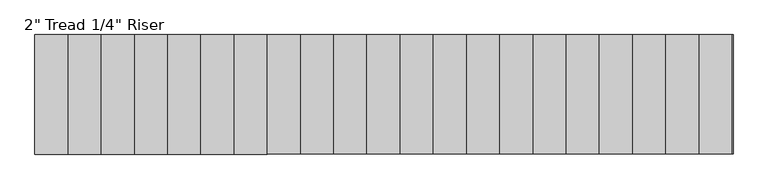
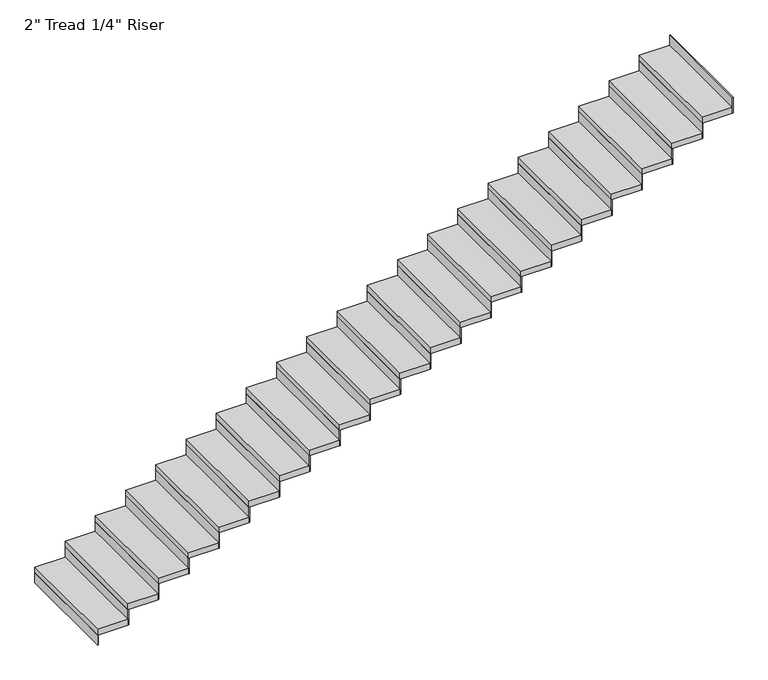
"""IFC4 building model written with IfcOpenShell, lengths in millimetres: stair flight geometry."""

import ifcopenshell
import ifcopenshell.guid

model = None  # the IFC model being written
_history = None  # IfcOwnerHistory: only IFC2X3 demands one
_inside = {}  # id of a spatial element -> (the spatial element, [elements in it])
_under = {}  # id of a project, library or spatial element -> (it, [spatial elements below it])
_declared = {}  # id of a project -> (the project, [libraries it declares])
_typed = {}  # id of a type object -> (the type object, [elements of that type])
_made_of = {}  # id of a material, layer set ... -> (it, [elements and type objects made of it])


def new_model(schema):
    """Start an empty IFC model of exactly this schema.

    Asked for "IFC4X3", IfcOpenShell would pick the latest addendum, in which some entities
    have other attributes; the version numbers below select the first issue.
    IFC2X3 requires an IfcOwnerHistory on every rooted entity: one is made here for all.
    """
    global model, _history
    if schema == "IFC4X3":
        model = ifcopenshell.file(schema_version=(4, 3, 0, 0))
    else:
        model = ifcopenshell.file(schema=schema)
    _inside.clear()
    _under.clear()
    _declared.clear()
    _typed.clear()
    _made_of.clear()
    _history = None
    if model.schema == "IFC2X3":
        org = make("IfcOrganization", Name="unknown")
        user = make(
            "IfcPersonAndOrganization",
            ThePerson=make("IfcPerson", FamilyName="unknown"),
            TheOrganization=org,
        )
        app = make(
            "IfcApplication",
            ApplicationDeveloper=org,
            Version="unknown",
            ApplicationFullName="unknown",
            ApplicationIdentifier="unknown",
        )
        _history = make(
            "IfcOwnerHistory",
            OwningUser=user,
            OwningApplication=app,
            ChangeAction="ADDED",
            CreationDate=0,
        )
    return model


def make(cls, **values):
    """One entity of the class cls with the attributes given. An attribute that is None is left unset."""
    return model.create_entity(
        cls, **{name: value for name, value in values.items() if value is not None}
    )


def rooted(cls, **values):
    """An entity with a GlobalId (a new one), such as an element, a storey or a relation."""
    return make(cls, GlobalId=ifcopenshell.guid.new(), OwnerHistory=_history, **values)


def si_unit(unit_type, name, prefix=None):
    """IfcSIUnit, for example si_unit("LENGTHUNIT", "METRE", prefix="MILLI")."""
    return make("IfcSIUnit", UnitType=unit_type, Prefix=prefix, Name=name)


def assignment(units):
    """IfcUnitAssignment: the units of a project."""
    return None if units is None else make("IfcUnitAssignment", Units=units)


def point(xyz):
    """IfcCartesianPoint."""
    return None if xyz is None else make("IfcCartesianPoint", Coordinates=xyz)


def direction(xyz):
    """IfcDirection."""
    return None if xyz is None else make("IfcDirection", DirectionRatios=xyz)


def frame(location, z_axis=None, x_axis=None):
    """IfcAxis2Placement3D, a coordinate frame: its origin and axes. An axis left out is left unset."""
    return make(
        "IfcAxis2Placement3D",
        Location=point(location),
        Axis=direction(z_axis),
        RefDirection=direction(x_axis),
    )


def origin():
    """The frame at (0, 0, 0) with its axes left unset."""
    return frame((0.0, 0.0, 0.0))


def origin_with_axes():
    """The frame at (0, 0, 0) with the z axis (0, 0, 1) and the x axis (1, 0, 0) written out."""
    return frame((0.0, 0.0, 0.0), z_axis=(0.0, 0.0, 1.0), x_axis=(1.0, 0.0, 0.0))


def place(relative_to, where):
    """IfcLocalPlacement: puts the frame where relative to a parent placement (None: the world)."""
    return make(
        "IfcLocalPlacement", PlacementRelTo=relative_to, RelativePlacement=where
    )


def context(
    kind, dimensions, precision=None, world=None, true_north=None, identifier=None
):
    """IfcGeometricRepresentationContext, for example the 3D "Model" context."""
    return make(
        "IfcGeometricRepresentationContext",
        ContextIdentifier=identifier,
        ContextType=kind,
        CoordinateSpaceDimension=dimensions,
        Precision=precision,
        WorldCoordinateSystem=world,
        TrueNorth=true_north,
    )


def project(units=None, contexts=None):
    """IfcProject with its units and contexts."""
    return rooted(
        "IfcProject",
        Name="project",
        RepresentationContexts=contexts,
        UnitsInContext=assignment(units),
    )


def spatial(cls, under=None, at=None, **own):
    """A site, building, storey or space (cls), placed at a placement, below another one or the project."""
    s = rooted(cls, ObjectPlacement=at, **own)
    if under is not None:
        _under.setdefault(under.id(), (under, []))[1].append(s)
    return s


def polyline(points):
    """IfcPolyline through the points."""
    return make("IfcPolyline", Points=[point(p) for p in points])


def outline(outer, holes=None, kind="AREA"):
    """IfcArbitraryClosedProfileDef: a profile drawn as a closed curve; with holes, ...WithVoids."""
    if holes is None:
        return make("IfcArbitraryClosedProfileDef", ProfileType=kind, OuterCurve=outer)
    return make(
        "IfcArbitraryProfileDefWithVoids",
        ProfileType=kind,
        OuterCurve=outer,
        InnerCurves=holes,
    )


def extrude(swept, where, along, depth):
    """IfcExtrudedAreaSolid: the profile swept, set in the frame where, extruded along a direction by depth."""
    return make(
        "IfcExtrudedAreaSolid",
        SweptArea=swept,
        Position=where,
        ExtrudedDirection=direction(along),
        Depth=depth,
    )


def shape(context_of_items, identifier, shape_type, items):
    """IfcShapeRepresentation: the items that make up one representation, for example the "Body"."""
    return make(
        "IfcShapeRepresentation",
        ContextOfItems=context_of_items,
        RepresentationIdentifier=identifier,
        RepresentationType=shape_type,
        Items=items,
    )


def source(mapping_origin, context_of_items, identifier, shape_type, items):
    """IfcRepresentationMap: a shape defined once, which mapped items show again and again."""
    return make(
        "IfcRepresentationMap",
        MappingOrigin=mapping_origin,
        MappedRepresentation=shape(context_of_items, identifier, shape_type, items),
    )


def transform(
    local_origin,
    x_axis=None,
    y_axis=None,
    z_axis=None,
    scale=None,
    scale2=None,
    scale3=None,
    uniform=True,
):
    """IfcCartesianTransformationOperator3D, or its non-uniform kind. x_axis, y_axis, z_axis: its Axis1, 2, 3."""
    if uniform:
        return make(
            "IfcCartesianTransformationOperator3D",
            Axis1=direction(x_axis),
            Axis2=direction(y_axis),
            LocalOrigin=point(local_origin),
            Scale=scale,
            Axis3=direction(z_axis),
        )
    return make(
        "IfcCartesianTransformationOperator3DnonUniform",
        Axis1=direction(x_axis),
        Axis2=direction(y_axis),
        LocalOrigin=point(local_origin),
        Scale=scale,
        Axis3=direction(z_axis),
        Scale2=scale2,
        Scale3=scale3,
    )


def mapped(mapping_source, mapping_target):
    """IfcMappedItem: shows the shape of a source again, moved by a transform."""
    return make(
        "IfcMappedItem", MappingSource=mapping_source, MappingTarget=mapping_target
    )


def made_of(thing, what):
    """Note that an element or type object is made of a material, layer set ...; save() writes the relation."""
    if what is not None:
        _made_of.setdefault(what.id(), (what, []))[1].append(thing)
    return thing


def element(
    cls,
    number,
    at=None,
    inside=None,
    cuts=None,
    type_object=None,
    material=None,
    context=None,
    identifier="Body",
    shape_type=None,
    held_by="IfcProductDefinitionShape",
    body=None,
    shapes=None,
    **own,
):
    """One element of the class cls, such as IfcWall. Its Tag is "e" and its number.

    at: its placement. inside: the storey or other place that contains it. cuts: it is an
    opening in that element (IfcRelVoidsElement). A single representation is given by context,
    identifier, shape_type and body (its items); several are given by shapes. held_by: the class
    of the entity that holds the representations. save() writes the other relations.
    """
    e = rooted(cls, Tag="e%d" % number, ObjectPlacement=at, **own)
    if body is not None:
        shapes = [shape(context, identifier, shape_type, body)]
    if shapes is not None:
        e.Representation = make(held_by, Representations=shapes)
    if inside is not None:
        _inside.setdefault(inside.id(), (inside, []))[1].append(e)
    if cuts is not None:
        rooted(
            "IfcRelVoidsElement", RelatingBuildingElement=cuts, RelatedOpeningElement=e
        )
    if type_object is not None:
        _typed.setdefault(type_object.id(), (type_object, []))[1].append(e)
    return made_of(e, material)


def aggregate(whole, parts):
    """IfcRelAggregates: a whole, such as a stair, and the parts it consists of."""
    return rooted("IfcRelAggregates", RelatingObject=whole, RelatedObjects=parts)


def save(model, path):
    """Write the relations noted so far, then the file.

    IfcRelAggregates (storeys below a building ...), IfcRelContainedInSpatialStructure (elements
    in a storey), IfcRelDefinesByType, IfcRelAssociatesMaterial and IfcRelDeclares: one each for
    every whole, place, type object, material and project.
    """
    for whole, parts in _under.values():
        aggregate(whole, parts)
    for where, things in _inside.values():
        rooted(
            "IfcRelContainedInSpatialStructure",
            RelatedElements=things,
            RelatingStructure=where,
        )
    for kind, things in _typed.values():
        rooted("IfcRelDefinesByType", RelatedObjects=things, RelatingType=kind)
    for what, things in _made_of.values():
        rooted("IfcRelAssociatesMaterial", RelatedObjects=things, RelatingMaterial=what)
    for by, libraries in _declared.values():
        rooted("IfcRelDeclares", RelatingContext=by, RelatedDefinitions=libraries)
    model.write(path)


def stair_flight_6f00a75b(model_context):
    return source(origin(), model_context, "Body", "SweptSolid", [
        extrude(outline(polyline([(10185.2072927, -18868.6990002), (10178.8572927, -18868.6990002), (10178.8572927, -17954.2990002), (10185.2072927, -17954.2990002), (10185.2072927, -18868.6990002)])), origin_with_axes(), (0.0, 0.0, 1.0), 87.7454545),
        extrude(outline(polyline([(10432.8572927, -17954.2990002), (10432.8572927, -18868.6990002), (10178.8572927, -18868.6990002), (10178.8572927, -17954.2990002), (10432.8572927, -17954.2990002)])), frame((0.0, 0.0, 87.7454545), z_axis=(0.0, 0.0, 1.0), x_axis=(1.0, 0.0, 0.0)), (0.0, 0.0, 1.0), 50.8),
        extrude(outline(polyline([(10439.2072927, -18868.6990002), (10432.8572927, -18868.6990002), (10432.8572927, -17954.2990002), (10439.2072927, -17954.2990002), (10439.2072927, -18868.6990002)])), frame((0.0, 0.0, 87.7454545), z_axis=(0.0, 0.0, 1.0), x_axis=(1.0, 0.0, 0.0)), (0.0, 0.0, 1.0), 138.5454545),
        extrude(outline(polyline([(10686.8572927, -17954.2990002), (10686.8572927, -18868.6990002), (10432.8572927, -18868.6990002), (10432.8572927, -17954.2990002), (10686.8572927, -17954.2990002)])), frame((0.0, 0.0, 226.2909091), z_axis=(0.0, 0.0, 1.0), x_axis=(1.0, 0.0, 0.0)), (0.0, 0.0, 1.0), 50.8),
        extrude(outline(polyline([(10693.2072927, -18868.6990002), (10686.8572927, -18868.6990002), (10686.8572927, -17954.2990002), (10693.2072927, -17954.2990002), (10693.2072927, -18868.6990002)])), frame((0.0, 0.0, 226.2909091), z_axis=(0.0, 0.0, 1.0), x_axis=(1.0, 0.0, 0.0)), (0.0, 0.0, 1.0), 138.5454545),
        extrude(outline(polyline([(10940.8572927, -17954.2990002), (10940.8572927, -18868.6990002), (10686.8572927, -18868.6990002), (10686.8572927, -17954.2990002), (10940.8572927, -17954.2990002)])), frame((0.0, 0.0, 364.8363636), z_axis=(0.0, 0.0, 1.0), x_axis=(1.0, 0.0, 0.0)), (0.0, 0.0, 1.0), 50.8),
        extrude(outline(polyline([(10947.2072927, -18868.6990002), (10940.8572927, -18868.6990002), (10940.8572927, -17954.2990002), (10947.2072927, -17954.2990002), (10947.2072927, -18868.6990002)])), frame((0.0, 0.0, 364.8363636), z_axis=(0.0, 0.0, 1.0), x_axis=(1.0, 0.0, 0.0)), (0.0, 0.0, 1.0), 138.5454545),
        extrude(outline(polyline([(11194.8572927, -17954.2990002), (11194.8572927, -18868.6990002), (10940.8572927, -18868.6990002), (10940.8572927, -17954.2990002), (11194.8572927, -17954.2990002)])), frame((0.0, 0.0, 503.3818182), z_axis=(0.0, 0.0, 1.0), x_axis=(1.0, 0.0, 0.0)), (0.0, 0.0, 1.0), 50.8),
        extrude(outline(polyline([(11201.2072927, -18868.6990002), (11194.8572927, -18868.6990002), (11194.8572927, -17954.2990002), (11201.2072927, -17954.2990002), (11201.2072927, -18868.6990002)])), frame((0.0, 0.0, 503.3818182), z_axis=(0.0, 0.0, 1.0), x_axis=(1.0, 0.0, 0.0)), (0.0, 0.0, 1.0), 138.5454545),
        extrude(outline(polyline([(11448.8572927, -17954.2990002), (11448.8572927, -18868.6990002), (11194.8572927, -18868.6990002), (11194.8572927, -17954.2990002), (11448.8572927, -17954.2990002)])), frame((0.0, 0.0, 641.9272727), z_axis=(0.0, 0.0, 1.0), x_axis=(1.0, 0.0, 0.0)), (0.0, 0.0, 1.0), 50.8),
        extrude(outline(polyline([(11455.2072927, -18868.6990002), (11448.8572927, -18868.6990002), (11448.8572927, -17954.2990002), (11455.2072927, -17954.2990002), (11455.2072927, -18868.6990002)])), frame((0.0, 0.0, 641.9272727), z_axis=(0.0, 0.0, 1.0), x_axis=(1.0, 0.0, 0.0)), (0.0, 0.0, 1.0), 138.5454545),
        extrude(outline(polyline([(11702.8572927, -17954.2990002), (11702.8572927, -18868.6990002), (11448.8572927, -18868.6990002), (11448.8572927, -17954.2990002), (11702.8572927, -17954.2990002)])), frame((0.0, 0.0, 780.4727273), z_axis=(0.0, 0.0, 1.0), x_axis=(1.0, 0.0, 0.0)), (0.0, 0.0, 1.0), 50.8),
        extrude(outline(polyline([(11709.2072927, -18868.6990002), (11702.8572927, -18868.6990002), (11702.8572927, -17954.2990002), (11709.2072927, -17954.2990002), (11709.2072927, -18868.6990002)])), frame((0.0, 0.0, 780.4727273), z_axis=(0.0, 0.0, 1.0), x_axis=(1.0, 0.0, 0.0)), (0.0, 0.0, 1.0), 138.5454545),
        extrude(outline(polyline([(11956.8572927, -17954.2990002), (11956.8572927, -18868.6990002), (11702.8572927, -18868.6990002), (11702.8572927, -17954.2990002), (11956.8572927, -17954.2990002)])), frame((0.0, 0.0, 919.0181818), z_axis=(0.0, 0.0, 1.0), x_axis=(1.0, 0.0, 0.0)), (0.0, 0.0, 1.0), 50.8),
        extrude(outline(polyline([(11963.2072927, -18868.6990002), (11956.8572927, -18868.6990002), (11956.8572927, -17954.2990002), (11963.2072927, -17954.2990002), (11963.2072927, -18868.6990002)])), frame((0.0, 0.0, 919.0181818), z_axis=(0.0, 0.0, 1.0), x_axis=(1.0, 0.0, 0.0)), (0.0, 0.0, 1.0), 138.5454545),
        extrude(outline(polyline([(12210.8572927, -17954.2990002), (12210.8572927, -18868.6990002), (11956.8572927, -18868.6990002), (11956.8572927, -17954.2990002), (12210.8572927, -17954.2990002)])), frame((0.0, 0.0, 1057.5636364), z_axis=(0.0, 0.0, 1.0), x_axis=(1.0, 0.0, 0.0)), (0.0, 0.0, 1.0), 50.8),
        extrude(outline(polyline([(12217.2072927, -18868.6990002), (12210.8572927, -18868.6990002), (12210.8572927, -17954.2990002), (12217.2072927, -17954.2990002), (12217.2072927, -18868.6990002)])), frame((0.0, 0.0, 1057.5636364), z_axis=(0.0, 0.0, 1.0), x_axis=(1.0, 0.0, 0.0)), (0.0, 0.0, 1.0), 138.5454545),
        extrude(outline(polyline([(12464.8572927, -17954.2990002), (12464.8572927, -18868.6990002), (12210.8572927, -18868.6990002), (12210.8572927, -17954.2990002), (12464.8572927, -17954.2990002)])), frame((0.0, 0.0, 1196.1090909), z_axis=(0.0, 0.0, 1.0), x_axis=(1.0, 0.0, 0.0)), (0.0, 0.0, 1.0), 50.8),
        extrude(outline(polyline([(12471.2072927, -18868.6990002), (12464.8572927, -18868.6990002), (12464.8572927, -17954.2990002), (12471.2072927, -17954.2990002), (12471.2072927, -18868.6990002)])), frame((0.0, 0.0, 1196.1090909), z_axis=(0.0, 0.0, 1.0), x_axis=(1.0, 0.0, 0.0)), (0.0, 0.0, 1.0), 138.5454545),
        extrude(outline(polyline([(12718.8572927, -17954.2990002), (12718.8572927, -18868.6990002), (12464.8572927, -18868.6990002), (12464.8572927, -17954.2990002), (12718.8572927, -17954.2990002)])), frame((0.0, 0.0, 1334.6545455), z_axis=(0.0, 0.0, 1.0), x_axis=(1.0, 0.0, 0.0)), (0.0, 0.0, 1.0), 50.8),
        extrude(outline(polyline([(12725.2072927, -18868.6990002), (12718.8572927, -18868.6990002), (12718.8572927, -17954.2990002), (12725.2072927, -17954.2990002), (12725.2072927, -18868.6990002)])), frame((0.0, 0.0, 1334.6545455), z_axis=(0.0, 0.0, 1.0), x_axis=(1.0, 0.0, 0.0)), (0.0, 0.0, 1.0), 138.5454545),
        extrude(outline(polyline([(12972.8572927, -17954.2990002), (12972.8572927, -18868.6990002), (12718.8572927, -18868.6990002), (12718.8572927, -17954.2990002), (12972.8572927, -17954.2990002)])), frame((0.0, 0.0, 1473.2), z_axis=(0.0, 0.0, 1.0), x_axis=(1.0, 0.0, 0.0)), (0.0, 0.0, 1.0), 50.8),
        extrude(outline(polyline([(12979.2072927, -18868.6990002), (12972.8572927, -18868.6990002), (12972.8572927, -17954.2990002), (12979.2072927, -17954.2990002), (12979.2072927, -18868.6990002)])), frame((0.0, 0.0, 1473.2), z_axis=(0.0, 0.0, 1.0), x_axis=(1.0, 0.0, 0.0)), (0.0, 0.0, 1.0), 138.5454545),
        extrude(outline(polyline([(13226.8572927, -17954.2990002), (13226.8572927, -18868.6990002), (12972.8572927, -18868.6990002), (12972.8572927, -17954.2990002), (13226.8572927, -17954.2990002)])), frame((0.0, 0.0, 1611.7454545), z_axis=(0.0, 0.0, 1.0), x_axis=(1.0, 0.0, 0.0)), (0.0, 0.0, 1.0), 50.8),
        extrude(outline(polyline([(13233.2072927, -18868.6990002), (13226.8572927, -18868.6990002), (13226.8572927, -17954.2990002), (13233.2072927, -17954.2990002), (13233.2072927, -18868.6990002)])), frame((0.0, 0.0, 1611.7454545), z_axis=(0.0, 0.0, 1.0), x_axis=(1.0, 0.0, 0.0)), (0.0, 0.0, 1.0), 138.5454545),
        extrude(outline(polyline([(13480.8572927, -17954.2990002), (13480.8572927, -18868.6990002), (13226.8572927, -18868.6990002), (13226.8572927, -17954.2990002), (13480.8572927, -17954.2990002)])), frame((0.0, 0.0, 1750.2909091), z_axis=(0.0, 0.0, 1.0), x_axis=(1.0, 0.0, 0.0)), (0.0, 0.0, 1.0), 50.8),
        extrude(outline(polyline([(13487.2072927, -18868.6990002), (13480.8572927, -18868.6990002), (13480.8572927, -17954.2990002), (13487.2072927, -17954.2990002), (13487.2072927, -18868.6990002)])), frame((0.0, 0.0, 1750.2909091), z_axis=(0.0, 0.0, 1.0), x_axis=(1.0, 0.0, 0.0)), (0.0, 0.0, 1.0), 138.5454545),
        extrude(outline(polyline([(13734.8572927, -17954.2990002), (13734.8572927, -18868.6990002), (13480.8572927, -18868.6990002), (13480.8572927, -17954.2990002), (13734.8572927, -17954.2990002)])), frame((0.0, 0.0, 1888.8363636), z_axis=(0.0, 0.0, 1.0), x_axis=(1.0, 0.0, 0.0)), (0.0, 0.0, 1.0), 50.8),
        extrude(outline(polyline([(13741.2072927, -18868.6990002), (13734.8572927, -18868.6990002), (13734.8572927, -17954.2990002), (13741.2072927, -17954.2990002), (13741.2072927, -18868.6990002)])), frame((0.0, 0.0, 1888.8363636), z_axis=(0.0, 0.0, 1.0), x_axis=(1.0, 0.0, 0.0)), (0.0, 0.0, 1.0), 138.5454545),
        extrude(outline(polyline([(13988.8572927, -17954.2990002), (13988.8572927, -18868.6990002), (13734.8572927, -18868.6990002), (13734.8572927, -17954.2990002), (13988.8572927, -17954.2990002)])), frame((0.0, 0.0, 2027.3818182), z_axis=(0.0, 0.0, 1.0), x_axis=(1.0, 0.0, 0.0)), (0.0, 0.0, 1.0), 50.8),
        extrude(outline(polyline([(13995.2072927, -18868.6990002), (13988.8572927, -18868.6990002), (13988.8572927, -17954.2990002), (13995.2072927, -17954.2990002), (13995.2072927, -18868.6990002)])), frame((0.0, 0.0, 2027.3818182), z_axis=(0.0, 0.0, 1.0), x_axis=(1.0, 0.0, 0.0)), (0.0, 0.0, 1.0), 138.5454545),
        extrude(outline(polyline([(14242.8572927, -17954.2990002), (14242.8572927, -18868.6990002), (13988.8572927, -18868.6990002), (13988.8572927, -17954.2990002), (14242.8572927, -17954.2990002)])), frame((0.0, 0.0, 2165.9272727), z_axis=(0.0, 0.0, 1.0), x_axis=(1.0, 0.0, 0.0)), (0.0, 0.0, 1.0), 50.8),
        extrude(outline(polyline([(14249.2072927, -18868.6990002), (14242.8572927, -18868.6990002), (14242.8572927, -17954.2990002), (14249.2072927, -17954.2990002), (14249.2072927, -18868.6990002)])), frame((0.0, 0.0, 2165.9272727), z_axis=(0.0, 0.0, 1.0), x_axis=(1.0, 0.0, 0.0)), (0.0, 0.0, 1.0), 138.5454545),
        extrude(outline(polyline([(14496.8572927, -17954.2990002), (14496.8572927, -18868.6990002), (14242.8572927, -18868.6990002), (14242.8572927, -17954.2990002), (14496.8572927, -17954.2990002)])), frame((0.0, 0.0, 2304.4727273), z_axis=(0.0, 0.0, 1.0), x_axis=(1.0, 0.0, 0.0)), (0.0, 0.0, 1.0), 50.8),
        extrude(outline(polyline([(14503.2072927, -18868.6990002), (14496.8572927, -18868.6990002), (14496.8572927, -17954.2990002), (14503.2072927, -17954.2990002), (14503.2072927, -18868.6990002)])), frame((0.0, 0.0, 2304.4727273), z_axis=(0.0, 0.0, 1.0), x_axis=(1.0, 0.0, 0.0)), (0.0, 0.0, 1.0), 138.5454545),
        extrude(outline(polyline([(14750.8572927, -17954.2990002), (14750.8572927, -18868.6990002), (14496.8572927, -18868.6990002), (14496.8572927, -17954.2990002), (14750.8572927, -17954.2990002)])), frame((0.0, 0.0, 2443.0181818), z_axis=(0.0, 0.0, 1.0), x_axis=(1.0, 0.0, 0.0)), (0.0, 0.0, 1.0), 50.8),
        extrude(outline(polyline([(14757.2072927, -18868.6990002), (14750.8572927, -18868.6990002), (14750.8572927, -17954.2990002), (14757.2072927, -17954.2990002), (14757.2072927, -18868.6990002)])), frame((0.0, 0.0, 2443.0181818), z_axis=(0.0, 0.0, 1.0), x_axis=(1.0, 0.0, 0.0)), (0.0, 0.0, 1.0), 138.5454545),
        extrude(outline(polyline([(15004.8572927, -17954.2990002), (15004.8572927, -18868.6990002), (14750.8572927, -18868.6990002), (14750.8572927, -17954.2990002), (15004.8572927, -17954.2990002)])), frame((0.0, 0.0, 2581.5636364), z_axis=(0.0, 0.0, 1.0), x_axis=(1.0, 0.0, 0.0)), (0.0, 0.0, 1.0), 50.8),
        extrude(outline(polyline([(15011.2072927, -18868.6990002), (15004.8572927, -18868.6990002), (15004.8572927, -17954.2990002), (15011.2072927, -17954.2990002), (15011.2072927, -18868.6990002)])), frame((0.0, 0.0, 2581.5636364), z_axis=(0.0, 0.0, 1.0), x_axis=(1.0, 0.0, 0.0)), (0.0, 0.0, 1.0), 138.5454545),
        extrude(outline(polyline([(15258.8572927, -17954.2990002), (15258.8572927, -18868.6990002), (15004.8572927, -18868.6990002), (15004.8572927, -17954.2990002), (15258.8572927, -17954.2990002)])), frame((0.0, 0.0, 2720.1090909), z_axis=(0.0, 0.0, 1.0), x_axis=(1.0, 0.0, 0.0)), (0.0, 0.0, 1.0), 50.8),
        extrude(outline(polyline([(15265.2072927, -18868.6990002), (15258.8572927, -18868.6990002), (15258.8572927, -17954.2990002), (15265.2072927, -17954.2990002), (15265.2072927, -18868.6990002)])), frame((0.0, 0.0, 2720.1090909), z_axis=(0.0, 0.0, 1.0), x_axis=(1.0, 0.0, 0.0)), (0.0, 0.0, 1.0), 138.5454545),
        extrude(outline(polyline([(15519.2072927, -18868.6990002), (15512.8572927, -18868.6990002), (15512.8572927, -17954.2990002), (15519.2072927, -17954.2990002), (15519.2072927, -18868.6990002)])), frame((0.0, 0.0, 2858.6545455), z_axis=(0.0, 0.0, 1.0), x_axis=(1.0, 0.0, 0.0)), (0.0, 0.0, 1.0), 138.5454545),
        extrude(outline(polyline([(15512.8572927, -17954.2990002), (15512.8572927, -18868.6990002), (15258.8572927, -18868.6990002), (15258.8572927, -17954.2990002), (15512.8572927, -17954.2990002)])), frame((0.0, 0.0, 2858.6545455), z_axis=(0.0, 0.0, 1.0), x_axis=(1.0, 0.0, 0.0)), (0.0, 0.0, 1.0), 50.8),
    ])


if __name__ == "__main__":
    model = new_model("IFC4")
    model_context = context("Model", 3, world=origin())
    ifc_project = project(units=[si_unit("LENGTHUNIT", "METRE", prefix="MILLI")], contexts=[model_context])
    site = spatial("IfcSite", under=ifc_project)
    building = spatial("IfcBuilding", under=site)
    placement = place(None, origin())
    stair_flight_shape = stair_flight_6f00a75b(model_context)
    element("IfcStairFlight", 1, ObjectType="2\" Tread 1/4\" Riser", at=placement, inside=building, context=model_context, shape_type="MappedRepresentation", body=[
        mapped(stair_flight_shape, transform((0.0, 0.0, 0.0), x_axis=(1.0, 0.0, 0.0), y_axis=(0.0, 1.0, 0.0), z_axis=(0.0, 0.0, 1.0))),
    ])
    save(model, "model.ifc")
